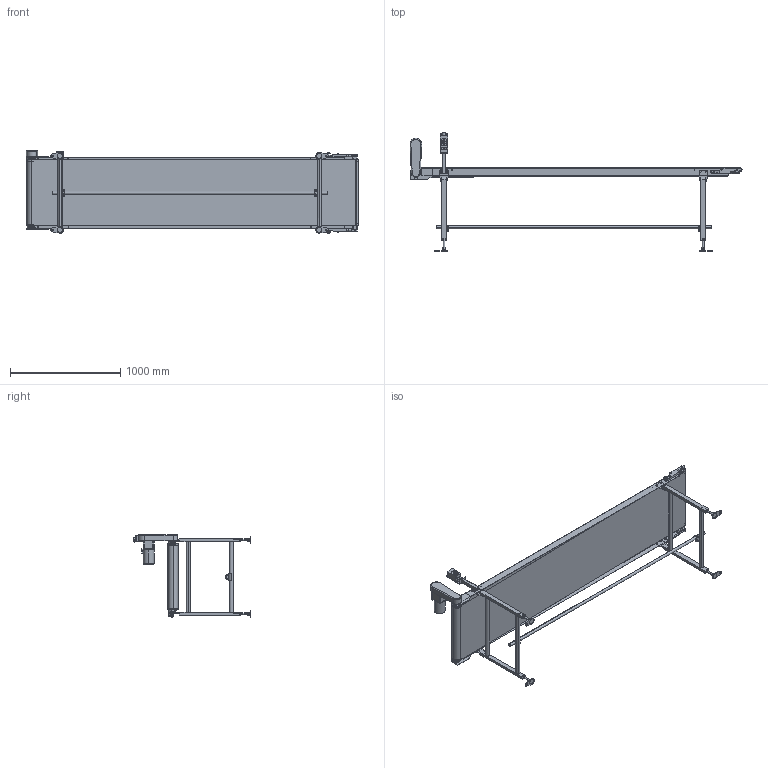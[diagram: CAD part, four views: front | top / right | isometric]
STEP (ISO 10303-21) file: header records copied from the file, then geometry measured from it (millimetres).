
FILE_DESCRIPTION( (''), '2;1');
FILE_NAME ('FB22-OD-309-600-300-L-K-100.stp','2025-02-17T09:57:55',(''),(''),'spGate 20.6.2 (****-****-****-****)','','');
FILE_SCHEMA (('AUTOMOTIVE_DESIGN'));
Length unit declared in the file: millimetre
Products named in the file (38): NewModel; TEMP_X_T-prt0; TEMP_X_T-prt1; TEMP_X_T-prt2; TEMP_X_T-prt3; TEMP_X_T-prt4; TEMP_X_T-prt5; TEMP_X_T-prt6; TEMP_X_T-prt7; TEMP_X_T-prt8; TEMP_X_T-prt9; TEMP_X_T-prt10; TEMP_X_T-prt11; TEMP_X_T-prt12; TEMP_X_T-prt13; TEMP_X_T-prt14; TEMP_X_T-prt15; TEMP_X_T-prt16; TEMP_X_T-prt17; TEMP_X_T-prt18; TEMP_X_T-prt19; TEMP_X_T-prt20; TEMP_X_T-prt21; TEMP_X_T-prt22; TEMP_X_T-prt23; TEMP_X_T-prt24; TEMP_X_T-prt25; TEMP_X_T-prt26; TEMP_X_T-prt27; TEMP_X_T-prt28; TEMP_X_T-prt29; TEMP_X_T-prt30; TEMP_X_T-prt31; TEMP_X_T-prt32; TEMP_X_T-prt33; TEMP_X_T-prt34; TEMP_X_T-prt35; TEMP_X_T-prt36
Assembly tree (37 placements, depth 2):
  NewModel
    TEMP_X_T-prt0
    TEMP_X_T-prt1
    TEMP_X_T-prt2
    TEMP_X_T-prt3
    TEMP_X_T-prt4
    TEMP_X_T-prt5
    TEMP_X_T-prt6
    TEMP_X_T-prt7
    TEMP_X_T-prt8
    TEMP_X_T-prt9
    TEMP_X_T-prt10
    TEMP_X_T-prt11
    TEMP_X_T-prt12
    TEMP_X_T-prt13
    TEMP_X_T-prt14
    TEMP_X_T-prt15
    TEMP_X_T-prt16
    TEMP_X_T-prt17
    TEMP_X_T-prt18
    TEMP_X_T-prt19
    TEMP_X_T-prt20
    TEMP_X_T-prt21
    TEMP_X_T-prt22
    TEMP_X_T-prt23
    TEMP_X_T-prt24
    TEMP_X_T-prt25
    TEMP_X_T-prt26
    TEMP_X_T-prt27
    TEMP_X_T-prt28
    TEMP_X_T-prt29
    TEMP_X_T-prt30
    TEMP_X_T-prt31
    TEMP_X_T-prt32
    TEMP_X_T-prt33
    TEMP_X_T-prt34
    TEMP_X_T-prt35
    TEMP_X_T-prt36
Bounding box: 3010.28 x 1069.5 x 750.7 mm (x, y, z)
Volume: 28075185 mm3; surface area: 13991791.8 mm2
Topology: 37 solids, 37 shells, 1221 faces, 3032 edges, 1982 vertices
Faces by surface type: plane 811, cylinder 354, bspline 50, sphere 6
Entity records: 63184 total; most frequent: CARTESIAN_POINT 8606, ORIENTED_EDGE 6016, DIRECTION 5995, COLOUR_RGB 4266, PRESENTATION_STYLE_ASSIGNMENT 4266, STYLED_ITEM 4266, EDGE_CURVE 3008, DRAUGHTING_PRE_DEFINED_CURVE_FONT 3008
